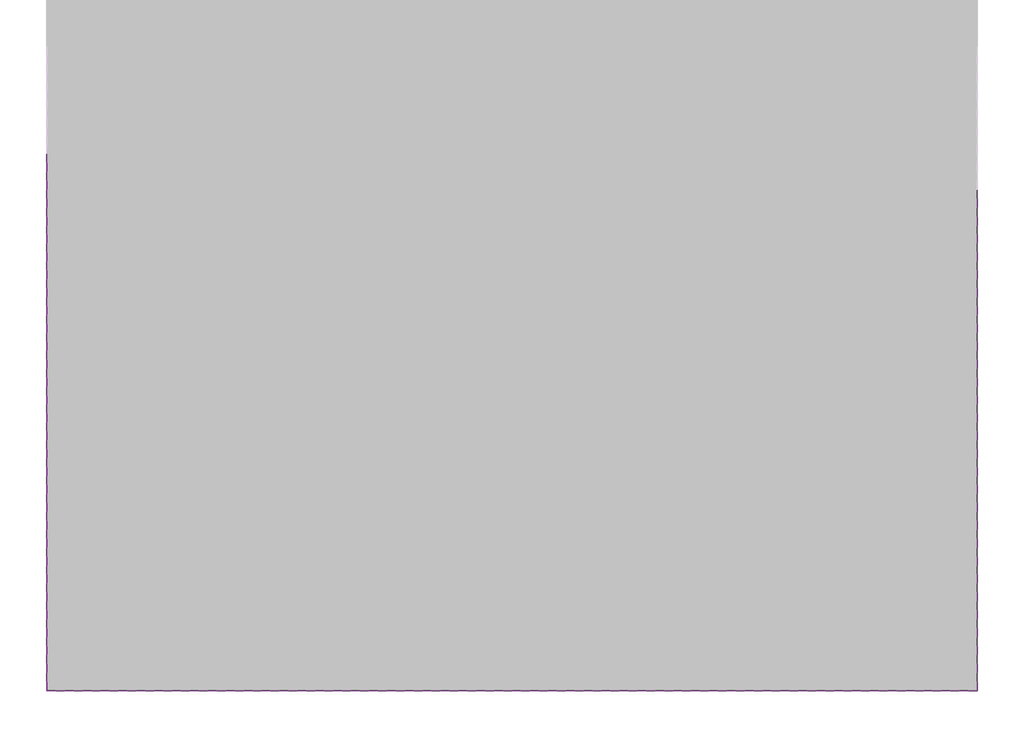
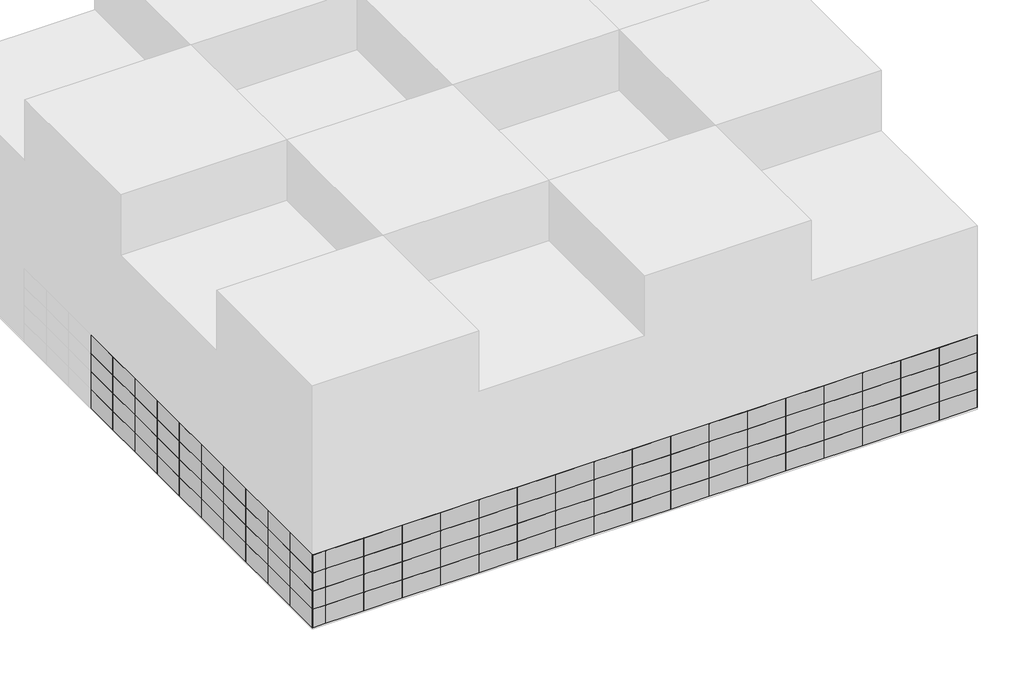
# One storey, part 1 of 2: 152 plates.
"""IFC4 building model written with IfcOpenShell, lengths in millimetres."""

from ifc_helpers import new_model, si_unit, origin, place, context, project, spatial, transform, mapped, element, save
from components import plate_b491c4e8, plate_da1865bf

model = new_model("IFC4")

# Units and contexts
model_context = context("Model", 3, world=origin())
ifc_project = project(units=[si_unit("LENGTHUNIT", "METRE", prefix="MILLI")], contexts=[model_context])

# Site, building, storey
site = spatial("IfcSite", under=ifc_project)
building = spatial("IfcBuilding", under=site)
storey = spatial("IfcBuildingStorey", under=building, Name="标高 1", Elevation=0.0)

# Plates
placement = place(None, origin())
plate_shape = plate_b491c4e8(model_context)
element("IfcPlate", 1, ObjectType="系统嵌板 : 玻璃", at=placement, inside=storey, context=model_context, shape_type="MappedRepresentation", body=[
    mapped(plate_shape, transform((-21305.2052414, -25748.6313563, 0.0), x_axis=(0.0, 1.0, 0.0), y_axis=(-1.0, 0.0, 0.0), z_axis=(0.0, 0.0, 1.0))),
])
element("IfcPlate", 2, ObjectType="系统嵌板 : 玻璃", at=placement, inside=storey, context=model_context, shape_type="MappedRepresentation", body=[
    mapped(plate_shape, transform((29194.7947586, -27248.6313563, 0.0), x_axis=(-1.0, 0.0, 0.0), y_axis=(0.0, -1.0, 0.0), z_axis=(0.0, 0.0, 1.0))),
])
element("IfcPlate", 3, ObjectType="系统嵌板 : 玻璃", at=placement, inside=storey, context=model_context, shape_type="MappedRepresentation", body=[
    mapped(plate_shape, transform((30694.7947586, -748.6313563, 0.0), x_axis=(0.0, -1.0, 0.0), y_axis=(1.0, 0.0, 0.0), z_axis=(0.0, 0.0, 1.0))),
])
element("IfcPlate", 4, ObjectType="系统嵌板 : 玻璃", at=placement, inside=storey, context=model_context, shape_type="MappedRepresentation", body=[
    mapped(plate_shape, transform((30694.7947586, -3748.6313563, 0.0), x_axis=(0.0, -1.0, 0.0), y_axis=(1.0, 0.0, 0.0), z_axis=(0.0, 0.0, 1.0))),
])
element("IfcPlate", 5, ObjectType="系统嵌板 : 玻璃", at=placement, inside=storey, context=model_context, shape_type="MappedRepresentation", body=[
    mapped(plate_shape, transform((30694.7947586, -6748.6313563, 0.0), x_axis=(0.0, -1.0, 0.0), y_axis=(1.0, 0.0, 0.0), z_axis=(0.0, 0.0, 1.0))),
])
element("IfcPlate", 6, ObjectType="系统嵌板 : 玻璃", at=placement, inside=storey, context=model_context, shape_type="MappedRepresentation", body=[
    mapped(plate_shape, transform((30694.7947586, -9748.6313563, 0.0), x_axis=(0.0, -1.0, 0.0), y_axis=(1.0, 0.0, 0.0), z_axis=(0.0, 0.0, 1.0))),
])
element("IfcPlate", 7, ObjectType="系统嵌板 : 玻璃", at=placement, inside=storey, context=model_context, shape_type="MappedRepresentation", body=[
    mapped(plate_shape, transform((30694.7947586, -12748.6313563, 0.0), x_axis=(0.0, -1.0, 0.0), y_axis=(1.0, 0.0, 0.0), z_axis=(0.0, 0.0, 1.0))),
])
element("IfcPlate", 8, ObjectType="系统嵌板 : 玻璃", at=placement, inside=storey, context=model_context, shape_type="MappedRepresentation", body=[
    mapped(plate_shape, transform((30694.7947586, -15748.6313563, 0.0), x_axis=(0.0, -1.0, 0.0), y_axis=(1.0, 0.0, 0.0), z_axis=(0.0, 0.0, 1.0))),
])
element("IfcPlate", 9, ObjectType="系统嵌板 : 玻璃", at=placement, inside=storey, context=model_context, shape_type="MappedRepresentation", body=[
    mapped(plate_shape, transform((30694.7947586, -18748.6313563, 0.0), x_axis=(0.0, -1.0, 0.0), y_axis=(1.0, 0.0, 0.0), z_axis=(0.0, 0.0, 1.0))),
])
element("IfcPlate", 10, ObjectType="系统嵌板 : 玻璃", at=placement, inside=storey, context=model_context, shape_type="MappedRepresentation", body=[
    mapped(plate_shape, transform((30694.7947586, -21748.6313563, 0.0), x_axis=(0.0, -1.0, 0.0), y_axis=(1.0, 0.0, 0.0), z_axis=(0.0, 0.0, 1.0))),
])
element("IfcPlate", 11, ObjectType="系统嵌板 : 玻璃", at=placement, inside=storey, context=model_context, shape_type="MappedRepresentation", body=[
    mapped(plate_shape, transform((30694.7947586, -24748.6313563, 0.0), x_axis=(0.0, -1.0, 0.0), y_axis=(1.0, 0.0, 0.0), z_axis=(0.0, 0.0, 1.0))),
])
element("IfcPlate", 12, ObjectType="系统嵌板 : 玻璃", at=placement, inside=storey, context=model_context, shape_type="MappedRepresentation", body=[
    mapped(plate_shape, transform((30694.7947586, -748.6313563, 1500.0), x_axis=(0.0, -1.0, 0.0), y_axis=(1.0, 0.0, 0.0), z_axis=(0.0, 0.0, 1.0))),
])
element("IfcPlate", 13, ObjectType="系统嵌板 : 玻璃", at=placement, inside=storey, context=model_context, shape_type="MappedRepresentation", body=[
    mapped(plate_shape, transform((30694.7947586, -3748.6313563, 1500.0), x_axis=(0.0, -1.0, 0.0), y_axis=(1.0, 0.0, 0.0), z_axis=(0.0, 0.0, 1.0))),
])
element("IfcPlate", 14, ObjectType="系统嵌板 : 玻璃", at=placement, inside=storey, context=model_context, shape_type="MappedRepresentation", body=[
    mapped(plate_shape, transform((30694.7947586, -6748.6313563, 1500.0), x_axis=(0.0, -1.0, 0.0), y_axis=(1.0, 0.0, 0.0), z_axis=(0.0, 0.0, 1.0))),
])
element("IfcPlate", 15, ObjectType="系统嵌板 : 玻璃", at=placement, inside=storey, context=model_context, shape_type="MappedRepresentation", body=[
    mapped(plate_shape, transform((30694.7947586, -9748.6313563, 1500.0), x_axis=(0.0, -1.0, 0.0), y_axis=(1.0, 0.0, 0.0), z_axis=(0.0, 0.0, 1.0))),
])
element("IfcPlate", 16, ObjectType="系统嵌板 : 玻璃", at=placement, inside=storey, context=model_context, shape_type="MappedRepresentation", body=[
    mapped(plate_shape, transform((30694.7947586, -12748.6313563, 1500.0), x_axis=(0.0, -1.0, 0.0), y_axis=(1.0, 0.0, 0.0), z_axis=(0.0, 0.0, 1.0))),
])
element("IfcPlate", 17, ObjectType="系统嵌板 : 玻璃", at=placement, inside=storey, context=model_context, shape_type="MappedRepresentation", body=[
    mapped(plate_shape, transform((30694.7947586, -15748.6313563, 1500.0), x_axis=(0.0, -1.0, 0.0), y_axis=(1.0, 0.0, 0.0), z_axis=(0.0, 0.0, 1.0))),
])
element("IfcPlate", 18, ObjectType="系统嵌板 : 玻璃", at=placement, inside=storey, context=model_context, shape_type="MappedRepresentation", body=[
    mapped(plate_shape, transform((30694.7947586, -18748.6313563, 1500.0), x_axis=(0.0, -1.0, 0.0), y_axis=(1.0, 0.0, 0.0), z_axis=(0.0, 0.0, 1.0))),
])
element("IfcPlate", 19, ObjectType="系统嵌板 : 玻璃", at=placement, inside=storey, context=model_context, shape_type="MappedRepresentation", body=[
    mapped(plate_shape, transform((30694.7947586, -21748.6313563, 1500.0), x_axis=(0.0, -1.0, 0.0), y_axis=(1.0, 0.0, 0.0), z_axis=(0.0, 0.0, 1.0))),
])
element("IfcPlate", 20, ObjectType="系统嵌板 : 玻璃", at=placement, inside=storey, context=model_context, shape_type="MappedRepresentation", body=[
    mapped(plate_shape, transform((30694.7947586, -24748.6313563, 1500.0), x_axis=(0.0, -1.0, 0.0), y_axis=(1.0, 0.0, 0.0), z_axis=(0.0, 0.0, 1.0))),
])
element("IfcPlate", 21, ObjectType="系统嵌板 : 玻璃", at=placement, inside=storey, context=model_context, shape_type="MappedRepresentation", body=[
    mapped(plate_shape, transform((30694.7947586, -748.6313563, 3000.0), x_axis=(0.0, -1.0, 0.0), y_axis=(1.0, 0.0, 0.0), z_axis=(0.0, 0.0, 1.0))),
])
element("IfcPlate", 22, ObjectType="系统嵌板 : 玻璃", at=placement, inside=storey, context=model_context, shape_type="MappedRepresentation", body=[
    mapped(plate_shape, transform((30694.7947586, -3748.6313563, 3000.0), x_axis=(0.0, -1.0, 0.0), y_axis=(1.0, 0.0, 0.0), z_axis=(0.0, 0.0, 1.0))),
])
element("IfcPlate", 23, ObjectType="系统嵌板 : 玻璃", at=placement, inside=storey, context=model_context, shape_type="MappedRepresentation", body=[
    mapped(plate_shape, transform((30694.7947586, -6748.6313563, 3000.0), x_axis=(0.0, -1.0, 0.0), y_axis=(1.0, 0.0, 0.0), z_axis=(0.0, 0.0, 1.0))),
])
element("IfcPlate", 24, ObjectType="系统嵌板 : 玻璃", at=placement, inside=storey, context=model_context, shape_type="MappedRepresentation", body=[
    mapped(plate_shape, transform((30694.7947586, -9748.6313563, 3000.0), x_axis=(0.0, -1.0, 0.0), y_axis=(1.0, 0.0, 0.0), z_axis=(0.0, 0.0, 1.0))),
])
element("IfcPlate", 25, ObjectType="系统嵌板 : 玻璃", at=placement, inside=storey, context=model_context, shape_type="MappedRepresentation", body=[
    mapped(plate_shape, transform((30694.7947586, -12748.6313563, 3000.0), x_axis=(0.0, -1.0, 0.0), y_axis=(1.0, 0.0, 0.0), z_axis=(0.0, 0.0, 1.0))),
])
element("IfcPlate", 26, ObjectType="系统嵌板 : 玻璃", at=placement, inside=storey, context=model_context, shape_type="MappedRepresentation", body=[
    mapped(plate_shape, transform((30694.7947586, -15748.6313563, 3000.0), x_axis=(0.0, -1.0, 0.0), y_axis=(1.0, 0.0, 0.0), z_axis=(0.0, 0.0, 1.0))),
])
element("IfcPlate", 27, ObjectType="系统嵌板 : 玻璃", at=placement, inside=storey, context=model_context, shape_type="MappedRepresentation", body=[
    mapped(plate_shape, transform((30694.7947586, -18748.6313563, 3000.0), x_axis=(0.0, -1.0, 0.0), y_axis=(1.0, 0.0, 0.0), z_axis=(0.0, 0.0, 1.0))),
])
element("IfcPlate", 28, ObjectType="系统嵌板 : 玻璃", at=placement, inside=storey, context=model_context, shape_type="MappedRepresentation", body=[
    mapped(plate_shape, transform((30694.7947586, -21748.6313563, 3000.0), x_axis=(0.0, -1.0, 0.0), y_axis=(1.0, 0.0, 0.0), z_axis=(0.0, 0.0, 1.0))),
])
element("IfcPlate", 29, ObjectType="系统嵌板 : 玻璃", at=placement, inside=storey, context=model_context, shape_type="MappedRepresentation", body=[
    mapped(plate_shape, transform((30694.7947586, -24748.6313563, 3000.0), x_axis=(0.0, -1.0, 0.0), y_axis=(1.0, 0.0, 0.0), z_axis=(0.0, 0.0, 1.0))),
])
element("IfcPlate", 30, ObjectType="系统嵌板 : 玻璃", at=placement, inside=storey, context=model_context, shape_type="MappedRepresentation", body=[
    mapped(plate_shape, transform((30694.7947586, -748.6313563, 4500.0), x_axis=(0.0, -1.0, 0.0), y_axis=(1.0, 0.0, 0.0), z_axis=(0.0, 0.0, 1.0))),
])
element("IfcPlate", 31, ObjectType="系统嵌板 : 玻璃", at=placement, inside=storey, context=model_context, shape_type="MappedRepresentation", body=[
    mapped(plate_shape, transform((30694.7947586, -3748.6313563, 4500.0), x_axis=(0.0, -1.0, 0.0), y_axis=(1.0, 0.0, 0.0), z_axis=(0.0, 0.0, 1.0))),
])
element("IfcPlate", 32, ObjectType="系统嵌板 : 玻璃", at=placement, inside=storey, context=model_context, shape_type="MappedRepresentation", body=[
    mapped(plate_shape, transform((30694.7947586, -6748.6313563, 4500.0), x_axis=(0.0, -1.0, 0.0), y_axis=(1.0, 0.0, 0.0), z_axis=(0.0, 0.0, 1.0))),
])
element("IfcPlate", 33, ObjectType="系统嵌板 : 玻璃", at=placement, inside=storey, context=model_context, shape_type="MappedRepresentation", body=[
    mapped(plate_shape, transform((30694.7947586, -9748.6313563, 4500.0), x_axis=(0.0, -1.0, 0.0), y_axis=(1.0, 0.0, 0.0), z_axis=(0.0, 0.0, 1.0))),
])
element("IfcPlate", 34, ObjectType="系统嵌板 : 玻璃", at=placement, inside=storey, context=model_context, shape_type="MappedRepresentation", body=[
    mapped(plate_shape, transform((30694.7947586, -12748.6313563, 4500.0), x_axis=(0.0, -1.0, 0.0), y_axis=(1.0, 0.0, 0.0), z_axis=(0.0, 0.0, 1.0))),
])
element("IfcPlate", 35, ObjectType="系统嵌板 : 玻璃", at=placement, inside=storey, context=model_context, shape_type="MappedRepresentation", body=[
    mapped(plate_shape, transform((30694.7947586, -15748.6313563, 4500.0), x_axis=(0.0, -1.0, 0.0), y_axis=(1.0, 0.0, 0.0), z_axis=(0.0, 0.0, 1.0))),
])
element("IfcPlate", 36, ObjectType="系统嵌板 : 玻璃", at=placement, inside=storey, context=model_context, shape_type="MappedRepresentation", body=[
    mapped(plate_shape, transform((30694.7947586, -18748.6313563, 4500.0), x_axis=(0.0, -1.0, 0.0), y_axis=(1.0, 0.0, 0.0), z_axis=(0.0, 0.0, 1.0))),
])
element("IfcPlate", 37, ObjectType="系统嵌板 : 玻璃", at=placement, inside=storey, context=model_context, shape_type="MappedRepresentation", body=[
    mapped(plate_shape, transform((30694.7947586, -21748.6313563, 4500.0), x_axis=(0.0, -1.0, 0.0), y_axis=(1.0, 0.0, 0.0), z_axis=(0.0, 0.0, 1.0))),
])
element("IfcPlate", 38, ObjectType="系统嵌板 : 玻璃", at=placement, inside=storey, context=model_context, shape_type="MappedRepresentation", body=[
    mapped(plate_shape, transform((30694.7947586, -24748.6313563, 4500.0), x_axis=(0.0, -1.0, 0.0), y_axis=(1.0, 0.0, 0.0), z_axis=(0.0, 0.0, 1.0))),
])
element("IfcPlate", 39, ObjectType="系统嵌板 : 玻璃", at=placement, inside=storey, context=model_context, shape_type="MappedRepresentation", body=[
    mapped(plate_shape, transform((-21305.2052414, -22748.6313563, 0.0), x_axis=(0.0, 1.0, 0.0), y_axis=(-1.0, 0.0, 0.0), z_axis=(0.0, 0.0, 1.0))),
])
element("IfcPlate", 40, ObjectType="系统嵌板 : 玻璃", at=placement, inside=storey, context=model_context, shape_type="MappedRepresentation", body=[
    mapped(plate_shape, transform((-21305.2052414, -19748.6313563, 0.0), x_axis=(0.0, 1.0, 0.0), y_axis=(-1.0, 0.0, 0.0), z_axis=(0.0, 0.0, 1.0))),
])
element("IfcPlate", 41, ObjectType="系统嵌板 : 玻璃", at=placement, inside=storey, context=model_context, shape_type="MappedRepresentation", body=[
    mapped(plate_shape, transform((-21305.2052414, -16748.6313563, 0.0), x_axis=(0.0, 1.0, 0.0), y_axis=(-1.0, 0.0, 0.0), z_axis=(0.0, 0.0, 1.0))),
])
element("IfcPlate", 42, ObjectType="系统嵌板 : 玻璃", at=placement, inside=storey, context=model_context, shape_type="MappedRepresentation", body=[
    mapped(plate_shape, transform((-21305.2052414, -13748.6313563, 0.0), x_axis=(0.0, 1.0, 0.0), y_axis=(-1.0, 0.0, 0.0), z_axis=(0.0, 0.0, 1.0))),
])
element("IfcPlate", 43, ObjectType="系统嵌板 : 玻璃", at=placement, inside=storey, context=model_context, shape_type="MappedRepresentation", body=[
    mapped(plate_shape, transform((-21305.2052414, -10748.6313563, 0.0), x_axis=(0.0, 1.0, 0.0), y_axis=(-1.0, 0.0, 0.0), z_axis=(0.0, 0.0, 1.0))),
])
element("IfcPlate", 44, ObjectType="系统嵌板 : 玻璃", at=placement, inside=storey, context=model_context, shape_type="MappedRepresentation", body=[
    mapped(plate_shape, transform((-21305.2052414, -7748.6313563, 0.0), x_axis=(0.0, 1.0, 0.0), y_axis=(-1.0, 0.0, 0.0), z_axis=(0.0, 0.0, 1.0))),
])
element("IfcPlate", 45, ObjectType="系统嵌板 : 玻璃", at=placement, inside=storey, context=model_context, shape_type="MappedRepresentation", body=[
    mapped(plate_shape, transform((-21305.2052414, -4748.6313563, 0.0), x_axis=(0.0, 1.0, 0.0), y_axis=(-1.0, 0.0, 0.0), z_axis=(0.0, 0.0, 1.0))),
])
element("IfcPlate", 46, ObjectType="系统嵌板 : 玻璃", at=placement, inside=storey, context=model_context, shape_type="MappedRepresentation", body=[
    mapped(plate_shape, transform((-21305.2052414, -1748.6313563, 0.0), x_axis=(0.0, 1.0, 0.0), y_axis=(-1.0, 0.0, 0.0), z_axis=(0.0, 0.0, 1.0))),
])
element("IfcPlate", 47, ObjectType="系统嵌板 : 玻璃", at=placement, inside=storey, context=model_context, shape_type="MappedRepresentation", body=[
    mapped(plate_shape, transform((-21305.2052414, 1251.3686437, 0.0), x_axis=(0.0, 1.0, 0.0), y_axis=(-1.0, 0.0, 0.0), z_axis=(0.0, 0.0, 1.0))),
])
element("IfcPlate", 48, ObjectType="系统嵌板 : 玻璃", at=placement, inside=storey, context=model_context, shape_type="MappedRepresentation", body=[
    mapped(plate_shape, transform((-21305.2052414, -25748.6313563, 1500.0), x_axis=(0.0, 1.0, 0.0), y_axis=(-1.0, 0.0, 0.0), z_axis=(0.0, 0.0, 1.0))),
])
element("IfcPlate", 49, ObjectType="系统嵌板 : 玻璃", at=placement, inside=storey, context=model_context, shape_type="MappedRepresentation", body=[
    mapped(plate_shape, transform((-21305.2052414, -22748.6313563, 1500.0), x_axis=(0.0, 1.0, 0.0), y_axis=(-1.0, 0.0, 0.0), z_axis=(0.0, 0.0, 1.0))),
])
element("IfcPlate", 50, ObjectType="系统嵌板 : 玻璃", at=placement, inside=storey, context=model_context, shape_type="MappedRepresentation", body=[
    mapped(plate_shape, transform((-21305.2052414, -19748.6313563, 1500.0), x_axis=(0.0, 1.0, 0.0), y_axis=(-1.0, 0.0, 0.0), z_axis=(0.0, 0.0, 1.0))),
])
element("IfcPlate", 51, ObjectType="系统嵌板 : 玻璃", at=placement, inside=storey, context=model_context, shape_type="MappedRepresentation", body=[
    mapped(plate_shape, transform((-21305.2052414, -16748.6313563, 1500.0), x_axis=(0.0, 1.0, 0.0), y_axis=(-1.0, 0.0, 0.0), z_axis=(0.0, 0.0, 1.0))),
])
element("IfcPlate", 52, ObjectType="系统嵌板 : 玻璃", at=placement, inside=storey, context=model_context, shape_type="MappedRepresentation", body=[
    mapped(plate_shape, transform((-21305.2052414, -13748.6313563, 1500.0), x_axis=(0.0, 1.0, 0.0), y_axis=(-1.0, 0.0, 0.0), z_axis=(0.0, 0.0, 1.0))),
])
element("IfcPlate", 53, ObjectType="系统嵌板 : 玻璃", at=placement, inside=storey, context=model_context, shape_type="MappedRepresentation", body=[
    mapped(plate_shape, transform((-21305.2052414, -10748.6313563, 1500.0), x_axis=(0.0, 1.0, 0.0), y_axis=(-1.0, 0.0, 0.0), z_axis=(0.0, 0.0, 1.0))),
])
element("IfcPlate", 54, ObjectType="系统嵌板 : 玻璃", at=placement, inside=storey, context=model_context, shape_type="MappedRepresentation", body=[
    mapped(plate_shape, transform((-21305.2052414, -7748.6313563, 1500.0), x_axis=(0.0, 1.0, 0.0), y_axis=(-1.0, 0.0, 0.0), z_axis=(0.0, 0.0, 1.0))),
])
element("IfcPlate", 55, ObjectType="系统嵌板 : 玻璃", at=placement, inside=storey, context=model_context, shape_type="MappedRepresentation", body=[
    mapped(plate_shape, transform((-21305.2052414, -4748.6313563, 1500.0), x_axis=(0.0, 1.0, 0.0), y_axis=(-1.0, 0.0, 0.0), z_axis=(0.0, 0.0, 1.0))),
])
element("IfcPlate", 56, ObjectType="系统嵌板 : 玻璃", at=placement, inside=storey, context=model_context, shape_type="MappedRepresentation", body=[
    mapped(plate_shape, transform((-21305.2052414, -1748.6313563, 1500.0), x_axis=(0.0, 1.0, 0.0), y_axis=(-1.0, 0.0, 0.0), z_axis=(0.0, 0.0, 1.0))),
])
element("IfcPlate", 57, ObjectType="系统嵌板 : 玻璃", at=placement, inside=storey, context=model_context, shape_type="MappedRepresentation", body=[
    mapped(plate_shape, transform((-21305.2052414, 1251.3686437, 1500.0), x_axis=(0.0, 1.0, 0.0), y_axis=(-1.0, 0.0, 0.0), z_axis=(0.0, 0.0, 1.0))),
])
element("IfcPlate", 58, ObjectType="系统嵌板 : 玻璃", at=placement, inside=storey, context=model_context, shape_type="MappedRepresentation", body=[
    mapped(plate_shape, transform((-21305.2052414, -25748.6313563, 3000.0), x_axis=(0.0, 1.0, 0.0), y_axis=(-1.0, 0.0, 0.0), z_axis=(0.0, 0.0, 1.0))),
])
element("IfcPlate", 59, ObjectType="系统嵌板 : 玻璃", at=placement, inside=storey, context=model_context, shape_type="MappedRepresentation", body=[
    mapped(plate_shape, transform((-21305.2052414, -22748.6313563, 3000.0), x_axis=(0.0, 1.0, 0.0), y_axis=(-1.0, 0.0, 0.0), z_axis=(0.0, 0.0, 1.0))),
])
element("IfcPlate", 60, ObjectType="系统嵌板 : 玻璃", at=placement, inside=storey, context=model_context, shape_type="MappedRepresentation", body=[
    mapped(plate_shape, transform((-21305.2052414, -19748.6313563, 3000.0), x_axis=(0.0, 1.0, 0.0), y_axis=(-1.0, 0.0, 0.0), z_axis=(0.0, 0.0, 1.0))),
])
element("IfcPlate", 61, ObjectType="系统嵌板 : 玻璃", at=placement, inside=storey, context=model_context, shape_type="MappedRepresentation", body=[
    mapped(plate_shape, transform((-21305.2052414, -16748.6313563, 3000.0), x_axis=(0.0, 1.0, 0.0), y_axis=(-1.0, 0.0, 0.0), z_axis=(0.0, 0.0, 1.0))),
])
element("IfcPlate", 62, ObjectType="系统嵌板 : 玻璃", at=placement, inside=storey, context=model_context, shape_type="MappedRepresentation", body=[
    mapped(plate_shape, transform((-21305.2052414, -13748.6313563, 3000.0), x_axis=(0.0, 1.0, 0.0), y_axis=(-1.0, 0.0, 0.0), z_axis=(0.0, 0.0, 1.0))),
])
element("IfcPlate", 63, ObjectType="系统嵌板 : 玻璃", at=placement, inside=storey, context=model_context, shape_type="MappedRepresentation", body=[
    mapped(plate_shape, transform((-21305.2052414, -10748.6313563, 3000.0), x_axis=(0.0, 1.0, 0.0), y_axis=(-1.0, 0.0, 0.0), z_axis=(0.0, 0.0, 1.0))),
])
element("IfcPlate", 64, ObjectType="系统嵌板 : 玻璃", at=placement, inside=storey, context=model_context, shape_type="MappedRepresentation", body=[
    mapped(plate_shape, transform((-21305.2052414, -7748.6313563, 3000.0), x_axis=(0.0, 1.0, 0.0), y_axis=(-1.0, 0.0, 0.0), z_axis=(0.0, 0.0, 1.0))),
])
element("IfcPlate", 65, ObjectType="系统嵌板 : 玻璃", at=placement, inside=storey, context=model_context, shape_type="MappedRepresentation", body=[
    mapped(plate_shape, transform((-21305.2052414, -4748.6313563, 3000.0), x_axis=(0.0, 1.0, 0.0), y_axis=(-1.0, 0.0, 0.0), z_axis=(0.0, 0.0, 1.0))),
])
element("IfcPlate", 66, ObjectType="系统嵌板 : 玻璃", at=placement, inside=storey, context=model_context, shape_type="MappedRepresentation", body=[
    mapped(plate_shape, transform((-21305.2052414, -1748.6313563, 3000.0), x_axis=(0.0, 1.0, 0.0), y_axis=(-1.0, 0.0, 0.0), z_axis=(0.0, 0.0, 1.0))),
])
element("IfcPlate", 67, ObjectType="系统嵌板 : 玻璃", at=placement, inside=storey, context=model_context, shape_type="MappedRepresentation", body=[
    mapped(plate_shape, transform((-21305.2052414, 1251.3686437, 3000.0), x_axis=(0.0, 1.0, 0.0), y_axis=(-1.0, 0.0, 0.0), z_axis=(0.0, 0.0, 1.0))),
])
element("IfcPlate", 68, ObjectType="系统嵌板 : 玻璃", at=placement, inside=storey, context=model_context, shape_type="MappedRepresentation", body=[
    mapped(plate_shape, transform((-21305.2052414, -25748.6313563, 4500.0), x_axis=(0.0, 1.0, 0.0), y_axis=(-1.0, 0.0, 0.0), z_axis=(0.0, 0.0, 1.0))),
])
element("IfcPlate", 69, ObjectType="系统嵌板 : 玻璃", at=placement, inside=storey, context=model_context, shape_type="MappedRepresentation", body=[
    mapped(plate_shape, transform((-21305.2052414, -22748.6313563, 4500.0), x_axis=(0.0, 1.0, 0.0), y_axis=(-1.0, 0.0, 0.0), z_axis=(0.0, 0.0, 1.0))),
])
element("IfcPlate", 70, ObjectType="系统嵌板 : 玻璃", at=placement, inside=storey, context=model_context, shape_type="MappedRepresentation", body=[
    mapped(plate_shape, transform((-21305.2052414, -19748.6313563, 4500.0), x_axis=(0.0, 1.0, 0.0), y_axis=(-1.0, 0.0, 0.0), z_axis=(0.0, 0.0, 1.0))),
])
element("IfcPlate", 71, ObjectType="系统嵌板 : 玻璃", at=placement, inside=storey, context=model_context, shape_type="MappedRepresentation", body=[
    mapped(plate_shape, transform((-21305.2052414, -16748.6313563, 4500.0), x_axis=(0.0, 1.0, 0.0), y_axis=(-1.0, 0.0, 0.0), z_axis=(0.0, 0.0, 1.0))),
])
element("IfcPlate", 72, ObjectType="系统嵌板 : 玻璃", at=placement, inside=storey, context=model_context, shape_type="MappedRepresentation", body=[
    mapped(plate_shape, transform((-21305.2052414, -13748.6313563, 4500.0), x_axis=(0.0, 1.0, 0.0), y_axis=(-1.0, 0.0, 0.0), z_axis=(0.0, 0.0, 1.0))),
])
element("IfcPlate", 73, ObjectType="系统嵌板 : 玻璃", at=placement, inside=storey, context=model_context, shape_type="MappedRepresentation", body=[
    mapped(plate_shape, transform((-21305.2052414, -10748.6313563, 4500.0), x_axis=(0.0, 1.0, 0.0), y_axis=(-1.0, 0.0, 0.0), z_axis=(0.0, 0.0, 1.0))),
])
element("IfcPlate", 74, ObjectType="系统嵌板 : 玻璃", at=placement, inside=storey, context=model_context, shape_type="MappedRepresentation", body=[
    mapped(plate_shape, transform((-21305.2052414, -7748.6313563, 4500.0), x_axis=(0.0, 1.0, 0.0), y_axis=(-1.0, 0.0, 0.0), z_axis=(0.0, 0.0, 1.0))),
])
element("IfcPlate", 75, ObjectType="系统嵌板 : 玻璃", at=placement, inside=storey, context=model_context, shape_type="MappedRepresentation", body=[
    mapped(plate_shape, transform((-21305.2052414, -4748.6313563, 4500.0), x_axis=(0.0, 1.0, 0.0), y_axis=(-1.0, 0.0, 0.0), z_axis=(0.0, 0.0, 1.0))),
])
element("IfcPlate", 76, ObjectType="系统嵌板 : 玻璃", at=placement, inside=storey, context=model_context, shape_type="MappedRepresentation", body=[
    mapped(plate_shape, transform((-21305.2052414, -1748.6313563, 4500.0), x_axis=(0.0, 1.0, 0.0), y_axis=(-1.0, 0.0, 0.0), z_axis=(0.0, 0.0, 1.0))),
])
element("IfcPlate", 77, ObjectType="系统嵌板 : 玻璃", at=placement, inside=storey, context=model_context, shape_type="MappedRepresentation", body=[
    mapped(plate_shape, transform((-21305.2052414, 1251.3686437, 4500.0), x_axis=(0.0, 1.0, 0.0), y_axis=(-1.0, 0.0, 0.0), z_axis=(0.0, 0.0, 1.0))),
])
element("IfcPlate", 78, ObjectType="系统嵌板 : 玻璃", at=placement, inside=storey, context=model_context, shape_type="MappedRepresentation", body=[
    mapped(plate_shape, transform((26194.7947586, -27248.6313563, 0.0), x_axis=(-1.0, 0.0, 0.0), y_axis=(0.0, -1.0, 0.0), z_axis=(0.0, 0.0, 1.0))),
])
element("IfcPlate", 79, ObjectType="系统嵌板 : 玻璃", at=placement, inside=storey, context=model_context, shape_type="MappedRepresentation", body=[
    mapped(plate_shape, transform((23194.7947586, -27248.6313563, 0.0), x_axis=(-1.0, 0.0, 0.0), y_axis=(0.0, -1.0, 0.0), z_axis=(0.0, 0.0, 1.0))),
])
element("IfcPlate", 80, ObjectType="系统嵌板 : 玻璃", at=placement, inside=storey, context=model_context, shape_type="MappedRepresentation", body=[
    mapped(plate_shape, transform((20194.7947586, -27248.6313563, 0.0), x_axis=(-1.0, 0.0, 0.0), y_axis=(0.0, -1.0, 0.0), z_axis=(0.0, 0.0, 1.0))),
])
element("IfcPlate", 81, ObjectType="系统嵌板 : 玻璃", at=placement, inside=storey, context=model_context, shape_type="MappedRepresentation", body=[
    mapped(plate_shape, transform((17194.7947586, -27248.6313563, 0.0), x_axis=(-1.0, 0.0, 0.0), y_axis=(0.0, -1.0, 0.0), z_axis=(0.0, 0.0, 1.0))),
])
element("IfcPlate", 82, ObjectType="系统嵌板 : 玻璃", at=placement, inside=storey, context=model_context, shape_type="MappedRepresentation", body=[
    mapped(plate_shape, transform((14194.7947586, -27248.6313563, 0.0), x_axis=(-1.0, 0.0, 0.0), y_axis=(0.0, -1.0, 0.0), z_axis=(0.0, 0.0, 1.0))),
])
element("IfcPlate", 83, ObjectType="系统嵌板 : 玻璃", at=placement, inside=storey, context=model_context, shape_type="MappedRepresentation", body=[
    mapped(plate_shape, transform((11194.7947586, -27248.6313563, 0.0), x_axis=(-1.0, 0.0, 0.0), y_axis=(0.0, -1.0, 0.0), z_axis=(0.0, 0.0, 1.0))),
])
element("IfcPlate", 84, ObjectType="系统嵌板 : 玻璃", at=placement, inside=storey, context=model_context, shape_type="MappedRepresentation", body=[
    mapped(plate_shape, transform((8194.7947586, -27248.6313563, 0.0), x_axis=(-1.0, 0.0, 0.0), y_axis=(0.0, -1.0, 0.0), z_axis=(0.0, 0.0, 1.0))),
])
element("IfcPlate", 85, ObjectType="系统嵌板 : 玻璃", at=placement, inside=storey, context=model_context, shape_type="MappedRepresentation", body=[
    mapped(plate_shape, transform((5194.7947586, -27248.6313563, 0.0), x_axis=(-1.0, 0.0, 0.0), y_axis=(0.0, -1.0, 0.0), z_axis=(0.0, 0.0, 1.0))),
])
element("IfcPlate", 86, ObjectType="系统嵌板 : 玻璃", at=placement, inside=storey, context=model_context, shape_type="MappedRepresentation", body=[
    mapped(plate_shape, transform((2194.7947586, -27248.6313563, 0.0), x_axis=(-1.0, 0.0, 0.0), y_axis=(0.0, -1.0, 0.0), z_axis=(0.0, 0.0, 1.0))),
])
element("IfcPlate", 87, ObjectType="系统嵌板 : 玻璃", at=placement, inside=storey, context=model_context, shape_type="MappedRepresentation", body=[
    mapped(plate_shape, transform((-805.2052414, -27248.6313563, 0.0), x_axis=(-1.0, 0.0, 0.0), y_axis=(0.0, -1.0, 0.0), z_axis=(0.0, 0.0, 1.0))),
])
element("IfcPlate", 88, ObjectType="系统嵌板 : 玻璃", at=placement, inside=storey, context=model_context, shape_type="MappedRepresentation", body=[
    mapped(plate_shape, transform((-3805.2052414, -27248.6313563, 0.0), x_axis=(-1.0, 0.0, 0.0), y_axis=(0.0, -1.0, 0.0), z_axis=(0.0, 0.0, 1.0))),
])
element("IfcPlate", 89, ObjectType="系统嵌板 : 玻璃", at=placement, inside=storey, context=model_context, shape_type="MappedRepresentation", body=[
    mapped(plate_shape, transform((-6805.2052414, -27248.6313563, 0.0), x_axis=(-1.0, 0.0, 0.0), y_axis=(0.0, -1.0, 0.0), z_axis=(0.0, 0.0, 1.0))),
])
element("IfcPlate", 90, ObjectType="系统嵌板 : 玻璃", at=placement, inside=storey, context=model_context, shape_type="MappedRepresentation", body=[
    mapped(plate_shape, transform((-9805.2052414, -27248.6313563, 0.0), x_axis=(-1.0, 0.0, 0.0), y_axis=(0.0, -1.0, 0.0), z_axis=(0.0, 0.0, 1.0))),
])
element("IfcPlate", 91, ObjectType="系统嵌板 : 玻璃", at=placement, inside=storey, context=model_context, shape_type="MappedRepresentation", body=[
    mapped(plate_shape, transform((-12805.2052414, -27248.6313563, 0.0), x_axis=(-1.0, 0.0, 0.0), y_axis=(0.0, -1.0, 0.0), z_axis=(0.0, 0.0, 1.0))),
])
element("IfcPlate", 92, ObjectType="系统嵌板 : 玻璃", at=placement, inside=storey, context=model_context, shape_type="MappedRepresentation", body=[
    mapped(plate_shape, transform((-15805.2052414, -27248.6313563, 0.0), x_axis=(-1.0, 0.0, 0.0), y_axis=(0.0, -1.0, 0.0), z_axis=(0.0, 0.0, 1.0))),
])
element("IfcPlate", 93, ObjectType="系统嵌板 : 玻璃", at=placement, inside=storey, context=model_context, shape_type="MappedRepresentation", body=[
    mapped(plate_shape, transform((-18805.2052414, -27248.6313563, 0.0), x_axis=(-1.0, 0.0, 0.0), y_axis=(0.0, -1.0, 0.0), z_axis=(0.0, 0.0, 1.0))),
])
element("IfcPlate", 94, ObjectType="系统嵌板 : 玻璃", at=placement, inside=storey, context=model_context, shape_type="MappedRepresentation", body=[
    mapped(plate_shape, transform((29194.7947586, -27248.6313563, 1500.0), x_axis=(-1.0, 0.0, 0.0), y_axis=(0.0, -1.0, 0.0), z_axis=(0.0, 0.0, 1.0))),
])
element("IfcPlate", 95, ObjectType="系统嵌板 : 玻璃", at=placement, inside=storey, context=model_context, shape_type="MappedRepresentation", body=[
    mapped(plate_shape, transform((26194.7947586, -27248.6313563, 1500.0), x_axis=(-1.0, 0.0, 0.0), y_axis=(0.0, -1.0, 0.0), z_axis=(0.0, 0.0, 1.0))),
])
element("IfcPlate", 96, ObjectType="系统嵌板 : 玻璃", at=placement, inside=storey, context=model_context, shape_type="MappedRepresentation", body=[
    mapped(plate_shape, transform((23194.7947586, -27248.6313563, 1500.0), x_axis=(-1.0, 0.0, 0.0), y_axis=(0.0, -1.0, 0.0), z_axis=(0.0, 0.0, 1.0))),
])
element("IfcPlate", 97, ObjectType="系统嵌板 : 玻璃", at=placement, inside=storey, context=model_context, shape_type="MappedRepresentation", body=[
    mapped(plate_shape, transform((20194.7947586, -27248.6313563, 1500.0), x_axis=(-1.0, 0.0, 0.0), y_axis=(0.0, -1.0, 0.0), z_axis=(0.0, 0.0, 1.0))),
])
element("IfcPlate", 98, ObjectType="系统嵌板 : 玻璃", at=placement, inside=storey, context=model_context, shape_type="MappedRepresentation", body=[
    mapped(plate_shape, transform((17194.7947586, -27248.6313563, 1500.0), x_axis=(-1.0, 0.0, 0.0), y_axis=(0.0, -1.0, 0.0), z_axis=(0.0, 0.0, 1.0))),
])
element("IfcPlate", 99, ObjectType="系统嵌板 : 玻璃", at=placement, inside=storey, context=model_context, shape_type="MappedRepresentation", body=[
    mapped(plate_shape, transform((14194.7947586, -27248.6313563, 1500.0), x_axis=(-1.0, 0.0, 0.0), y_axis=(0.0, -1.0, 0.0), z_axis=(0.0, 0.0, 1.0))),
])
element("IfcPlate", 100, ObjectType="系统嵌板 : 玻璃", at=placement, inside=storey, context=model_context, shape_type="MappedRepresentation", body=[
    mapped(plate_shape, transform((11194.7947586, -27248.6313563, 1500.0), x_axis=(-1.0, 0.0, 0.0), y_axis=(0.0, -1.0, 0.0), z_axis=(0.0, 0.0, 1.0))),
])
element("IfcPlate", 101, ObjectType="系统嵌板 : 玻璃", at=placement, inside=storey, context=model_context, shape_type="MappedRepresentation", body=[
    mapped(plate_shape, transform((8194.7947586, -27248.6313563, 1500.0), x_axis=(-1.0, 0.0, 0.0), y_axis=(0.0, -1.0, 0.0), z_axis=(0.0, 0.0, 1.0))),
])
element("IfcPlate", 102, ObjectType="系统嵌板 : 玻璃", at=placement, inside=storey, context=model_context, shape_type="MappedRepresentation", body=[
    mapped(plate_shape, transform((5194.7947586, -27248.6313563, 1500.0), x_axis=(-1.0, 0.0, 0.0), y_axis=(0.0, -1.0, 0.0), z_axis=(0.0, 0.0, 1.0))),
])
element("IfcPlate", 103, ObjectType="系统嵌板 : 玻璃", at=placement, inside=storey, context=model_context, shape_type="MappedRepresentation", body=[
    mapped(plate_shape, transform((2194.7947586, -27248.6313563, 1500.0), x_axis=(-1.0, 0.0, 0.0), y_axis=(0.0, -1.0, 0.0), z_axis=(0.0, 0.0, 1.0))),
])
element("IfcPlate", 104, ObjectType="系统嵌板 : 玻璃", at=placement, inside=storey, context=model_context, shape_type="MappedRepresentation", body=[
    mapped(plate_shape, transform((-805.2052414, -27248.6313563, 1500.0), x_axis=(-1.0, 0.0, 0.0), y_axis=(0.0, -1.0, 0.0), z_axis=(0.0, 0.0, 1.0))),
])
element("IfcPlate", 105, ObjectType="系统嵌板 : 玻璃", at=placement, inside=storey, context=model_context, shape_type="MappedRepresentation", body=[
    mapped(plate_shape, transform((-3805.2052414, -27248.6313563, 1500.0), x_axis=(-1.0, 0.0, 0.0), y_axis=(0.0, -1.0, 0.0), z_axis=(0.0, 0.0, 1.0))),
])
element("IfcPlate", 106, ObjectType="系统嵌板 : 玻璃", at=placement, inside=storey, context=model_context, shape_type="MappedRepresentation", body=[
    mapped(plate_shape, transform((-6805.2052414, -27248.6313563, 1500.0), x_axis=(-1.0, 0.0, 0.0), y_axis=(0.0, -1.0, 0.0), z_axis=(0.0, 0.0, 1.0))),
])
element("IfcPlate", 107, ObjectType="系统嵌板 : 玻璃", at=placement, inside=storey, context=model_context, shape_type="MappedRepresentation", body=[
    mapped(plate_shape, transform((-9805.2052414, -27248.6313563, 1500.0), x_axis=(-1.0, 0.0, 0.0), y_axis=(0.0, -1.0, 0.0), z_axis=(0.0, 0.0, 1.0))),
])
element("IfcPlate", 108, ObjectType="系统嵌板 : 玻璃", at=placement, inside=storey, context=model_context, shape_type="MappedRepresentation", body=[
    mapped(plate_shape, transform((-12805.2052414, -27248.6313563, 1500.0), x_axis=(-1.0, 0.0, 0.0), y_axis=(0.0, -1.0, 0.0), z_axis=(0.0, 0.0, 1.0))),
])
element("IfcPlate", 109, ObjectType="系统嵌板 : 玻璃", at=placement, inside=storey, context=model_context, shape_type="MappedRepresentation", body=[
    mapped(plate_shape, transform((-15805.2052414, -27248.6313563, 1500.0), x_axis=(-1.0, 0.0, 0.0), y_axis=(0.0, -1.0, 0.0), z_axis=(0.0, 0.0, 1.0))),
])
element("IfcPlate", 110, ObjectType="系统嵌板 : 玻璃", at=placement, inside=storey, context=model_context, shape_type="MappedRepresentation", body=[
    mapped(plate_shape, transform((-18805.2052414, -27248.6313563, 1500.0), x_axis=(-1.0, 0.0, 0.0), y_axis=(0.0, -1.0, 0.0), z_axis=(0.0, 0.0, 1.0))),
])
element("IfcPlate", 111, ObjectType="系统嵌板 : 玻璃", at=placement, inside=storey, context=model_context, shape_type="MappedRepresentation", body=[
    mapped(plate_shape, transform((29194.7947586, -27248.6313563, 3000.0), x_axis=(-1.0, 0.0, 0.0), y_axis=(0.0, -1.0, 0.0), z_axis=(0.0, 0.0, 1.0))),
])
element("IfcPlate", 112, ObjectType="系统嵌板 : 玻璃", at=placement, inside=storey, context=model_context, shape_type="MappedRepresentation", body=[
    mapped(plate_shape, transform((26194.7947586, -27248.6313563, 3000.0), x_axis=(-1.0, 0.0, 0.0), y_axis=(0.0, -1.0, 0.0), z_axis=(0.0, 0.0, 1.0))),
])
element("IfcPlate", 113, ObjectType="系统嵌板 : 玻璃", at=placement, inside=storey, context=model_context, shape_type="MappedRepresentation", body=[
    mapped(plate_shape, transform((23194.7947586, -27248.6313563, 3000.0), x_axis=(-1.0, 0.0, 0.0), y_axis=(0.0, -1.0, 0.0), z_axis=(0.0, 0.0, 1.0))),
])
element("IfcPlate", 114, ObjectType="系统嵌板 : 玻璃", at=placement, inside=storey, context=model_context, shape_type="MappedRepresentation", body=[
    mapped(plate_shape, transform((20194.7947586, -27248.6313563, 3000.0), x_axis=(-1.0, 0.0, 0.0), y_axis=(0.0, -1.0, 0.0), z_axis=(0.0, 0.0, 1.0))),
])
element("IfcPlate", 115, ObjectType="系统嵌板 : 玻璃", at=placement, inside=storey, context=model_context, shape_type="MappedRepresentation", body=[
    mapped(plate_shape, transform((17194.7947586, -27248.6313563, 3000.0), x_axis=(-1.0, 0.0, 0.0), y_axis=(0.0, -1.0, 0.0), z_axis=(0.0, 0.0, 1.0))),
])
element("IfcPlate", 116, ObjectType="系统嵌板 : 玻璃", at=placement, inside=storey, context=model_context, shape_type="MappedRepresentation", body=[
    mapped(plate_shape, transform((14194.7947586, -27248.6313563, 3000.0), x_axis=(-1.0, 0.0, 0.0), y_axis=(0.0, -1.0, 0.0), z_axis=(0.0, 0.0, 1.0))),
])
element("IfcPlate", 117, ObjectType="系统嵌板 : 玻璃", at=placement, inside=storey, context=model_context, shape_type="MappedRepresentation", body=[
    mapped(plate_shape, transform((11194.7947586, -27248.6313563, 3000.0), x_axis=(-1.0, 0.0, 0.0), y_axis=(0.0, -1.0, 0.0), z_axis=(0.0, 0.0, 1.0))),
])
element("IfcPlate", 118, ObjectType="系统嵌板 : 玻璃", at=placement, inside=storey, context=model_context, shape_type="MappedRepresentation", body=[
    mapped(plate_shape, transform((8194.7947586, -27248.6313563, 3000.0), x_axis=(-1.0, 0.0, 0.0), y_axis=(0.0, -1.0, 0.0), z_axis=(0.0, 0.0, 1.0))),
])
element("IfcPlate", 119, ObjectType="系统嵌板 : 玻璃", at=placement, inside=storey, context=model_context, shape_type="MappedRepresentation", body=[
    mapped(plate_shape, transform((5194.7947586, -27248.6313563, 3000.0), x_axis=(-1.0, 0.0, 0.0), y_axis=(0.0, -1.0, 0.0), z_axis=(0.0, 0.0, 1.0))),
])
element("IfcPlate", 120, ObjectType="系统嵌板 : 玻璃", at=placement, inside=storey, context=model_context, shape_type="MappedRepresentation", body=[
    mapped(plate_shape, transform((2194.7947586, -27248.6313563, 3000.0), x_axis=(-1.0, 0.0, 0.0), y_axis=(0.0, -1.0, 0.0), z_axis=(0.0, 0.0, 1.0))),
])
element("IfcPlate", 121, ObjectType="系统嵌板 : 玻璃", at=placement, inside=storey, context=model_context, shape_type="MappedRepresentation", body=[
    mapped(plate_shape, transform((-805.2052414, -27248.6313563, 3000.0), x_axis=(-1.0, 0.0, 0.0), y_axis=(0.0, -1.0, 0.0), z_axis=(0.0, 0.0, 1.0))),
])
element("IfcPlate", 122, ObjectType="系统嵌板 : 玻璃", at=placement, inside=storey, context=model_context, shape_type="MappedRepresentation", body=[
    mapped(plate_shape, transform((-3805.2052414, -27248.6313563, 3000.0), x_axis=(-1.0, 0.0, 0.0), y_axis=(0.0, -1.0, 0.0), z_axis=(0.0, 0.0, 1.0))),
])
element("IfcPlate", 123, ObjectType="系统嵌板 : 玻璃", at=placement, inside=storey, context=model_context, shape_type="MappedRepresentation", body=[
    mapped(plate_shape, transform((-6805.2052414, -27248.6313563, 3000.0), x_axis=(-1.0, 0.0, 0.0), y_axis=(0.0, -1.0, 0.0), z_axis=(0.0, 0.0, 1.0))),
])
element("IfcPlate", 124, ObjectType="系统嵌板 : 玻璃", at=placement, inside=storey, context=model_context, shape_type="MappedRepresentation", body=[
    mapped(plate_shape, transform((-9805.2052414, -27248.6313563, 3000.0), x_axis=(-1.0, 0.0, 0.0), y_axis=(0.0, -1.0, 0.0), z_axis=(0.0, 0.0, 1.0))),
])
element("IfcPlate", 125, ObjectType="系统嵌板 : 玻璃", at=placement, inside=storey, context=model_context, shape_type="MappedRepresentation", body=[
    mapped(plate_shape, transform((-12805.2052414, -27248.6313563, 3000.0), x_axis=(-1.0, 0.0, 0.0), y_axis=(0.0, -1.0, 0.0), z_axis=(0.0, 0.0, 1.0))),
])
element("IfcPlate", 126, ObjectType="系统嵌板 : 玻璃", at=placement, inside=storey, context=model_context, shape_type="MappedRepresentation", body=[
    mapped(plate_shape, transform((-15805.2052414, -27248.6313563, 3000.0), x_axis=(-1.0, 0.0, 0.0), y_axis=(0.0, -1.0, 0.0), z_axis=(0.0, 0.0, 1.0))),
])
element("IfcPlate", 127, ObjectType="系统嵌板 : 玻璃", at=placement, inside=storey, context=model_context, shape_type="MappedRepresentation", body=[
    mapped(plate_shape, transform((-18805.2052414, -27248.6313563, 3000.0), x_axis=(-1.0, 0.0, 0.0), y_axis=(0.0, -1.0, 0.0), z_axis=(0.0, 0.0, 1.0))),
])
element("IfcPlate", 128, ObjectType="系统嵌板 : 玻璃", at=placement, inside=storey, context=model_context, shape_type="MappedRepresentation", body=[
    mapped(plate_shape, transform((29194.7947586, -27248.6313563, 4500.0), x_axis=(-1.0, 0.0, 0.0), y_axis=(0.0, -1.0, 0.0), z_axis=(0.0, 0.0, 1.0))),
])
element("IfcPlate", 129, ObjectType="系统嵌板 : 玻璃", at=placement, inside=storey, context=model_context, shape_type="MappedRepresentation", body=[
    mapped(plate_shape, transform((26194.7947586, -27248.6313563, 4500.0), x_axis=(-1.0, 0.0, 0.0), y_axis=(0.0, -1.0, 0.0), z_axis=(0.0, 0.0, 1.0))),
])
element("IfcPlate", 130, ObjectType="系统嵌板 : 玻璃", at=placement, inside=storey, context=model_context, shape_type="MappedRepresentation", body=[
    mapped(plate_shape, transform((23194.7947586, -27248.6313563, 4500.0), x_axis=(-1.0, 0.0, 0.0), y_axis=(0.0, -1.0, 0.0), z_axis=(0.0, 0.0, 1.0))),
])
element("IfcPlate", 131, ObjectType="系统嵌板 : 玻璃", at=placement, inside=storey, context=model_context, shape_type="MappedRepresentation", body=[
    mapped(plate_shape, transform((20194.7947586, -27248.6313563, 4500.0), x_axis=(-1.0, 0.0, 0.0), y_axis=(0.0, -1.0, 0.0), z_axis=(0.0, 0.0, 1.0))),
])
element("IfcPlate", 132, ObjectType="系统嵌板 : 玻璃", at=placement, inside=storey, context=model_context, shape_type="MappedRepresentation", body=[
    mapped(plate_shape, transform((17194.7947586, -27248.6313563, 4500.0), x_axis=(-1.0, 0.0, 0.0), y_axis=(0.0, -1.0, 0.0), z_axis=(0.0, 0.0, 1.0))),
])
element("IfcPlate", 133, ObjectType="系统嵌板 : 玻璃", at=placement, inside=storey, context=model_context, shape_type="MappedRepresentation", body=[
    mapped(plate_shape, transform((14194.7947586, -27248.6313563, 4500.0), x_axis=(-1.0, 0.0, 0.0), y_axis=(0.0, -1.0, 0.0), z_axis=(0.0, 0.0, 1.0))),
])
element("IfcPlate", 134, ObjectType="系统嵌板 : 玻璃", at=placement, inside=storey, context=model_context, shape_type="MappedRepresentation", body=[
    mapped(plate_shape, transform((11194.7947586, -27248.6313563, 4500.0), x_axis=(-1.0, 0.0, 0.0), y_axis=(0.0, -1.0, 0.0), z_axis=(0.0, 0.0, 1.0))),
])
element("IfcPlate", 135, ObjectType="系统嵌板 : 玻璃", at=placement, inside=storey, context=model_context, shape_type="MappedRepresentation", body=[
    mapped(plate_shape, transform((8194.7947586, -27248.6313563, 4500.0), x_axis=(-1.0, 0.0, 0.0), y_axis=(0.0, -1.0, 0.0), z_axis=(0.0, 0.0, 1.0))),
])
element("IfcPlate", 136, ObjectType="系统嵌板 : 玻璃", at=placement, inside=storey, context=model_context, shape_type="MappedRepresentation", body=[
    mapped(plate_shape, transform((5194.7947586, -27248.6313563, 4500.0), x_axis=(-1.0, 0.0, 0.0), y_axis=(0.0, -1.0, 0.0), z_axis=(0.0, 0.0, 1.0))),
])
element("IfcPlate", 137, ObjectType="系统嵌板 : 玻璃", at=placement, inside=storey, context=model_context, shape_type="MappedRepresentation", body=[
    mapped(plate_shape, transform((2194.7947586, -27248.6313563, 4500.0), x_axis=(-1.0, 0.0, 0.0), y_axis=(0.0, -1.0, 0.0), z_axis=(0.0, 0.0, 1.0))),
])
element("IfcPlate", 138, ObjectType="系统嵌板 : 玻璃", at=placement, inside=storey, context=model_context, shape_type="MappedRepresentation", body=[
    mapped(plate_shape, transform((-805.2052414, -27248.6313563, 4500.0), x_axis=(-1.0, 0.0, 0.0), y_axis=(0.0, -1.0, 0.0), z_axis=(0.0, 0.0, 1.0))),
])
element("IfcPlate", 139, ObjectType="系统嵌板 : 玻璃", at=placement, inside=storey, context=model_context, shape_type="MappedRepresentation", body=[
    mapped(plate_shape, transform((-3805.2052414, -27248.6313563, 4500.0), x_axis=(-1.0, 0.0, 0.0), y_axis=(0.0, -1.0, 0.0), z_axis=(0.0, 0.0, 1.0))),
])
element("IfcPlate", 140, ObjectType="系统嵌板 : 玻璃", at=placement, inside=storey, context=model_context, shape_type="MappedRepresentation", body=[
    mapped(plate_shape, transform((-6805.2052414, -27248.6313563, 4500.0), x_axis=(-1.0, 0.0, 0.0), y_axis=(0.0, -1.0, 0.0), z_axis=(0.0, 0.0, 1.0))),
])
element("IfcPlate", 141, ObjectType="系统嵌板 : 玻璃", at=placement, inside=storey, context=model_context, shape_type="MappedRepresentation", body=[
    mapped(plate_shape, transform((-9805.2052414, -27248.6313563, 4500.0), x_axis=(-1.0, 0.0, 0.0), y_axis=(0.0, -1.0, 0.0), z_axis=(0.0, 0.0, 1.0))),
])
element("IfcPlate", 142, ObjectType="系统嵌板 : 玻璃", at=placement, inside=storey, context=model_context, shape_type="MappedRepresentation", body=[
    mapped(plate_shape, transform((-12805.2052414, -27248.6313563, 4500.0), x_axis=(-1.0, 0.0, 0.0), y_axis=(0.0, -1.0, 0.0), z_axis=(0.0, 0.0, 1.0))),
])
element("IfcPlate", 143, ObjectType="系统嵌板 : 玻璃", at=placement, inside=storey, context=model_context, shape_type="MappedRepresentation", body=[
    mapped(plate_shape, transform((-15805.2052414, -27248.6313563, 4500.0), x_axis=(-1.0, 0.0, 0.0), y_axis=(0.0, -1.0, 0.0), z_axis=(0.0, 0.0, 1.0))),
])
element("IfcPlate", 144, ObjectType="系统嵌板 : 玻璃", at=placement, inside=storey, context=model_context, shape_type="MappedRepresentation", body=[
    mapped(plate_shape, transform((-18805.2052414, -27248.6313563, 4500.0), x_axis=(-1.0, 0.0, 0.0), y_axis=(0.0, -1.0, 0.0), z_axis=(0.0, 0.0, 1.0))),
])
plate_2_shape = plate_da1865bf(model_context)
element("IfcPlate", 145, ObjectType="系统嵌板 : 玻璃", at=placement, inside=storey, context=model_context, shape_type="MappedRepresentation", body=[
    mapped(plate_2_shape, transform((30694.7947586, -26748.6313563, 0.0), x_axis=(0.0, -1.0, 0.0), y_axis=(1.0, 0.0, 0.0), z_axis=(0.0, 0.0, 1.0))),
])
element("IfcPlate", 146, ObjectType="系统嵌板 : 玻璃", at=placement, inside=storey, context=model_context, shape_type="MappedRepresentation", body=[
    mapped(plate_2_shape, transform((30694.7947586, -26748.6313563, 1500.0), x_axis=(0.0, -1.0, 0.0), y_axis=(1.0, 0.0, 0.0), z_axis=(0.0, 0.0, 1.0))),
])
element("IfcPlate", 147, ObjectType="系统嵌板 : 玻璃", at=placement, inside=storey, context=model_context, shape_type="MappedRepresentation", body=[
    mapped(plate_2_shape, transform((30694.7947586, -26748.6313563, 3000.0), x_axis=(0.0, -1.0, 0.0), y_axis=(1.0, 0.0, 0.0), z_axis=(0.0, 0.0, 1.0))),
])
element("IfcPlate", 148, ObjectType="系统嵌板 : 玻璃", at=placement, inside=storey, context=model_context, shape_type="MappedRepresentation", body=[
    mapped(plate_2_shape, transform((30694.7947586, -26748.6313563, 4500.0), x_axis=(0.0, -1.0, 0.0), y_axis=(1.0, 0.0, 0.0), z_axis=(0.0, 0.0, 1.0))),
])
element("IfcPlate", 149, ObjectType="系统嵌板 : 玻璃", at=placement, inside=storey, context=model_context, shape_type="MappedRepresentation", body=[
    mapped(plate_2_shape, transform((-20805.2052414, -27248.6313563, 0.0), x_axis=(-1.0, 0.0, 0.0), y_axis=(0.0, -1.0, 0.0), z_axis=(0.0, 0.0, 1.0))),
])
element("IfcPlate", 150, ObjectType="系统嵌板 : 玻璃", at=placement, inside=storey, context=model_context, shape_type="MappedRepresentation", body=[
    mapped(plate_2_shape, transform((-20805.2052414, -27248.6313563, 1500.0), x_axis=(-1.0, 0.0, 0.0), y_axis=(0.0, -1.0, 0.0), z_axis=(0.0, 0.0, 1.0))),
])
element("IfcPlate", 151, ObjectType="系统嵌板 : 玻璃", at=placement, inside=storey, context=model_context, shape_type="MappedRepresentation", body=[
    mapped(plate_2_shape, transform((-20805.2052414, -27248.6313563, 3000.0), x_axis=(-1.0, 0.0, 0.0), y_axis=(0.0, -1.0, 0.0), z_axis=(0.0, 0.0, 1.0))),
])
element("IfcPlate", 152, ObjectType="系统嵌板 : 玻璃", at=placement, inside=storey, context=model_context, shape_type="MappedRepresentation", body=[
    mapped(plate_2_shape, transform((-20805.2052414, -27248.6313563, 4500.0), x_axis=(-1.0, 0.0, 0.0), y_axis=(0.0, -1.0, 0.0), z_axis=(0.0, 0.0, 1.0))),
])

save(model, "model.ifc")
